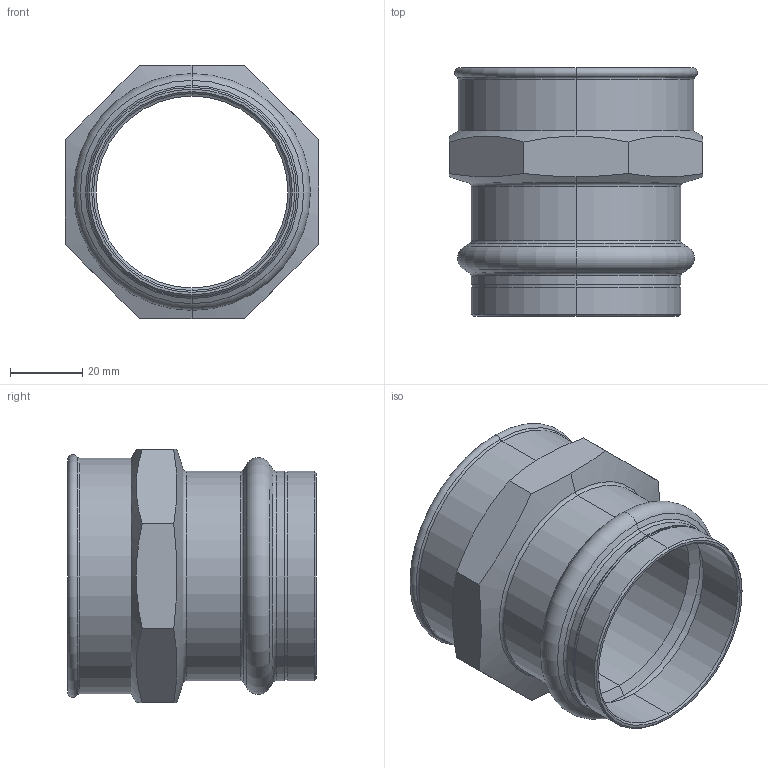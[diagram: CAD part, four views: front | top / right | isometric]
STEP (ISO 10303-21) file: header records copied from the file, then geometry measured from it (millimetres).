
FILE_DESCRIPTION (( 'STEP AP203' ), '1' );
FILE_NAME ('SP4270G Ø54 2.STEP', '2017-04-26T08:41:21', ( '' ), ( '' ), 'SwSTEP 2.0', 'SolidWorks 2016', '' );
FILE_SCHEMA (( 'CONFIG_CONTROL_DESIGN' ));
Length unit declared in the file: millimetre
Products named in the file (1): SP4270G ﾘ54 2
Bounding box: 70 x 68.6 x 70 mm (x, y, z)
Volume: 47864.7 mm3; surface area: 29978.6 mm2
Topology: 1 solids, 1 shells, 65 faces, 140 edges, 80 vertices
Faces by surface type: cone 20, cylinder 18, torus 14, plane 13
Entity records: 1957 total; most frequent: CARTESIAN_POINT 454, DIRECTION 326, ORIENTED_EDGE 280, EDGE_CURVE 140, AXIS2_PLACEMENT_3D 140, VERTEX_POINT 80, CIRCLE 74, EDGE_LOOP 70
